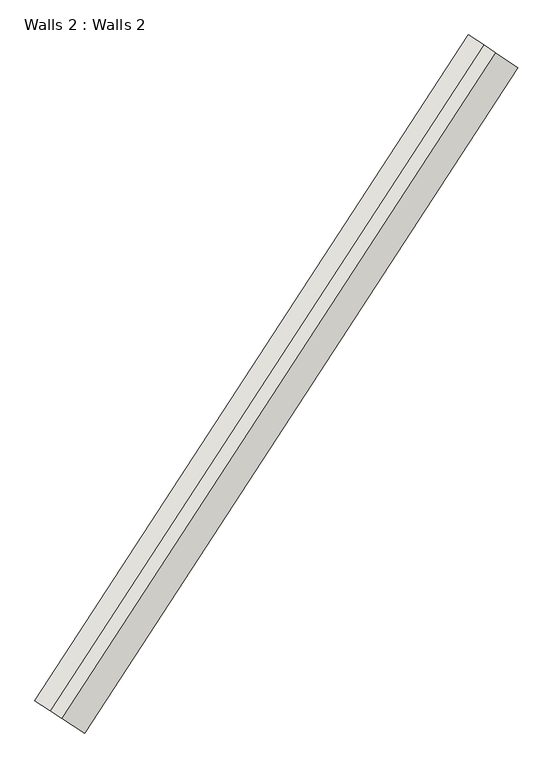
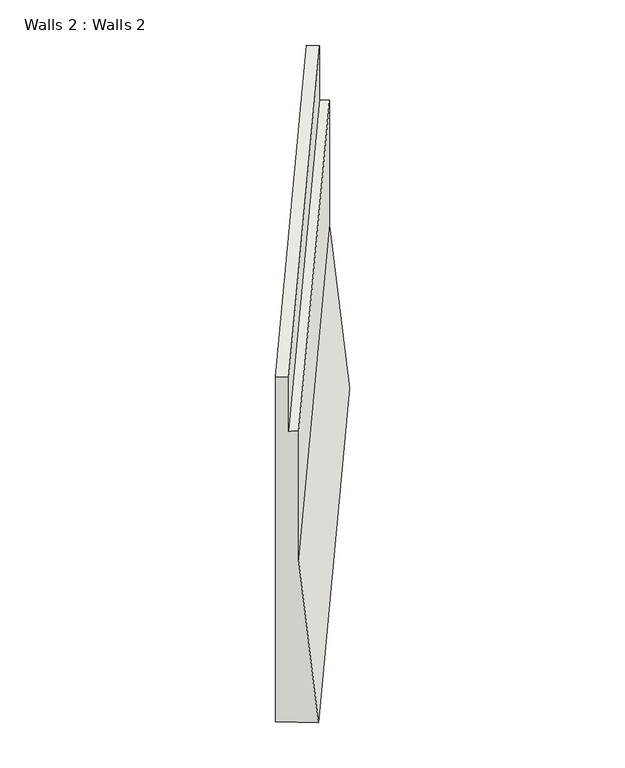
"""IFC4 building model written with IfcOpenShell, lengths in millimetres: wall geometry, Walls 2 : Walls 2."""

from ifc_helpers import new_model, si_unit, frame, origin, place, context, project, spatial, source, transform, mapped, element, save
from ifc_brep_helpers import plane_surface, spline_curve, spline_surface, advanced_brep


def walls_2_walls_2_f6509d08(model_context):
    return source(origin(), model_context, "Body", "AdvancedBrep", [
        advanced_brep(
        [(-347849.4933162, -499172.4992596, 634160.0), (-348101.7824596, -499010.1733707, 637160.0), (-348101.7824596, -499010.1733707, 639530.0), (-348227.9270312, -498929.0104263, 639530.0), (-348227.9270312, -498929.0104263, 640530.0), (-348396.1197934, -498820.793167, 640530.0), (-348396.1197934, -498820.793167, 634160.0), (-343103.9241277, -491890.356619, 634260.0), (-343646.4200036, -491532.3120605, 634260.0), (-343646.4200036, -491532.3120605, 640570.0), (-343479.4981956, -491642.479617, 640570.0), (-343479.4981956, -491642.479617, 639570.0), (-343354.3068396, -491725.1052843, 639570.0), (-343354.3068396, -491725.1052843, 637260.0)],
        [
            (0, 1),
            (1, 2),
            (2, 3),
            (3, 4),
            (4, 5),
            (5, 6),
            (6, 0),
            (7, 8),
            (8, 9),
            (9, 10),
            (10, 11),
            (11, 12),
            (12, 13),
            (13, 7),
            (13, 1, spline_curve(3, [(-343354.3068396, -491725.1052843, 637260.0), (-344950.913215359, -494144.224227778, 637226.666666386), (-346533.440820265, -496572.635087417, 637193.333333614), (-348101.7824596, -499010.1733707, 637160.0)], [4, 4], [0.0, 28.524659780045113])),
            (0, 7, spline_curve(3, [(-347849.4933162, -499172.4992596, 634160.0), (-346281.781471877, -496735.939812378, 634193.333333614), (-344699.889358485, -494308.504122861, 634226.666666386), (-343103.9241277, -491890.356619, 634260.0)], [4, 4], [0.0, 28.524659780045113])),
            (12, 2, spline_curve(3, [(-343354.3068396, -491725.1052843, 639570.0), (-344950.913215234, -494144.224227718, 639556.666666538), (-346533.440819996, -496572.635087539, 639543.333333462), (-348101.7824596, -499010.1733707, 639530.0)], [4, 4], [0.0, 28.529425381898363])),
            (11, 3, spline_curve(3, [(-343479.4981956, -491642.479617, 639570.0), (-345076.425143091, -494062.084279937, 639556.666667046), (-346659.270494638, -496490.982725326, 639543.333332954), (-348227.9270312, -498929.0104263, 639530.0)], [4, 4], [0.0, 28.531666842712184])),
            (10, 4, spline_curve(3, [(-343479.4981956, -491642.479617, 640570.0), (-345076.425143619, -494062.084279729, 640556.66666692), (-346659.2704946, -496490.982725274, 640543.33333308), (-348227.9270312, -498929.0104263, 640530.0)], [4, 4], [0.0, 28.5345308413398])),
            (9, 5, spline_curve(3, [(-343646.4200036, -491532.3120605, 640570.0), (-345243.774382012, -493952.564349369, 640556.666666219), (-346827.043393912, -496382.112908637, 640543.333333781), (-348396.1197934, -498820.793167, 640530.0)], [4, 4], [0.0, 28.538349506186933])),
            (8, 6, spline_curve(3, [(-343646.4200036, -491532.3120605, 634260.0), (-345243.774381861, -493952.56434958, 634226.666666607), (-346827.043393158, -496382.112908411, 634193.333333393), (-348396.1197934, -498820.793167, 634160.0)], [4, 4], [0.0, 28.542790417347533])),
        ],
        [
            plane_surface(frame((-348185.8788407, -498956.0647411, 637942.8571429), z_axis=(-0.541087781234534, -0.8409661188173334, 0.0), x_axis=(-0.08367902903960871, 0.0538401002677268, 0.9950372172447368))),
            plane_surface(frame((-343437.7677436, -491670.0215061, 638008.5714286), z_axis=(0.5508392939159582, 0.8346113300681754, 0.0), x_axis=(-0.08304670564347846, 0.05481040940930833, 0.9950372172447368))),
            spline_surface(3, 3, [[(-343103.9241277, -491890.356619, 634260.0), (-344699.889358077, -494308.504122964, 634226.666666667), (-346281.781471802, -496735.939812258, 634193.333333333), (-347849.4933162, -499172.4992596, 634160.0)], [(-343187.385031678, -491835.272840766, 635260.0), (-344783.563977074, -494253.744157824, 635226.666666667), (-346365.667921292, -496681.504903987, 635193.333333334), (-347933.58969731, -499118.390629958, 635160.0)], [(-343270.845935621, -491780.189062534, 636260.0), (-344867.238596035, -494198.984192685, 636226.666666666), (-346449.554370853, -496627.069995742, 636193.333333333), (-348017.68607849, -499064.282000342, 636160.0)], [(-343354.3068396, -491725.1052843, 637260.0), (-344950.913215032, -494144.224227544, 637226.666666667), (-346533.440820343, -496572.635087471, 637193.333333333), (-348101.7824596, -499010.1733707, 637160.0)]], [4, 4], [4, 4], [0.0, 9.891609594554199], [0.0, 28.524659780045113]),
            spline_surface(3, 3, [[(-343354.3068396, -491725.1052843, 637260.0), (-344950.913215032, -494144.224227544, 637226.666666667), (-346533.440820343, -496572.635087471, 637193.333333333), (-348101.7824596, -499010.1733707, 637160.0)], [(-343354.3068396, -491725.1052843, 638030.0), (-344950.913215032, -494144.224227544, 638003.333333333), (-346533.440820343, -496572.635087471, 637976.666666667), (-348101.7824596, -499010.1733707, 637950.0)], [(-343354.3068396, -491725.1052843, 638800.0), (-344950.913215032, -494144.224227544, 638780.0), (-346533.440820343, -496572.635087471, 638760.0), (-348101.7824596, -499010.1733707, 638740.0)], [(-343354.3068396, -491725.1052843, 639570.0), (-344950.913215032, -494144.224227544, 639556.666666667), (-346533.440820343, -496572.635087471, 639543.333333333), (-348101.7824596, -499010.1733707, 639530.0)]], [4, 4], [4, 4], [0.0, 7.677165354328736], [0.0, 28.529425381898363]),
            spline_surface(3, 3, [[(-343354.3068396, -491725.1052843, 639570.0), (-344950.913215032, -494144.224227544, 639556.666666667), (-346533.440820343, -496572.635087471, 639543.333333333), (-348101.7824596, -499010.1733707, 639530.0)], [(-343396.037291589, -491697.563395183, 639570.0), (-344992.75052453, -494116.844244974, 639556.666666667), (-346575.384045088, -496545.417633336, 639543.333333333), (-348143.830650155, -498983.119055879, 639530.0)], [(-343437.767743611, -491670.021506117, 639570.0), (-345034.587834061, -494089.464262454, 639556.666666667), (-346617.327269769, -496518.200179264, 639543.333333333), (-348185.878840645, -498956.064741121, 639530.0)], [(-343479.4981956, -491642.479617, 639570.0), (-345076.425143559, -494062.084279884, 639556.666666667), (-346659.270494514, -496490.982725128, 639543.333333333), (-348227.9270312, -498929.0104263, 639530.0)]], [4, 4], [4, 4], [0.0, 0.4921246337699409], [0.0, 28.531666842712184]),
            spline_surface(3, 3, [[(-343479.4981956, -491642.479617, 639570.0), (-345076.425143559, -494062.084279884, 639556.666666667), (-346659.270494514, -496490.982725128, 639543.333333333), (-348227.9270312, -498929.0104263, 639530.0)], [(-343479.4981956, -491642.479617, 639903.333333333), (-345076.425143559, -494062.084279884, 639890.0), (-346659.270494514, -496490.982725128, 639876.666666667), (-348227.9270312, -498929.0104263, 639863.333333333)], [(-343479.4981956, -491642.479617, 640236.666666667), (-345076.425143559, -494062.084279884, 640223.333333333), (-346659.270494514, -496490.982725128, 640210.0), (-348227.9270312, -498929.0104263, 640196.666666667)], [(-343479.4981956, -491642.479617, 640570.0), (-345076.425143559, -494062.084279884, 640556.666666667), (-346659.270494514, -496490.982725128, 640543.333333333), (-348227.9270312, -498929.0104263, 640530.0)]], [4, 4], [4, 4], [0.0, 3.280839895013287], [0.0, 28.5345308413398]),
            spline_surface(3, 3, [[(-343479.4981956, -491642.479617, 640570.0), (-345076.425143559, -494062.084279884, 640556.666666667), (-346659.270494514, -496490.982725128, 640543.333333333), (-348227.9270312, -498929.0104263, 640530.0)], [(-343535.138798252, -491605.757098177, 640570.0), (-345132.20822289, -494025.577636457, 640556.666666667), (-346715.194794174, -496454.692786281, 640543.333333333), (-348283.991285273, -498892.938006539, 640530.0)], [(-343590.779400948, -491569.034579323, 640570.0), (-345187.991302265, -493989.070992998, 640556.666666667), (-346771.119093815, -496418.402847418, 640543.333333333), (-348340.055539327, -498856.865586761, 640530.0)], [(-343646.4200036, -491532.3120605, 640570.0), (-345243.774381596, -493952.564349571, 640556.666666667), (-346827.043393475, -496382.112908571, 640543.333333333), (-348396.1197934, -498820.793167, 640530.0)]], [4, 4], [4, 4], [0.0, 0.6561661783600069], [0.0, 28.538349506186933]),
            spline_surface(3, 3, [[(-343646.4200036, -491532.3120605, 640570.0), (-345243.774381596, -493952.564349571, 640556.666666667), (-346827.043393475, -496382.112908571, 640543.333333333), (-348396.1197934, -498820.793167, 640530.0)], [(-343646.4200036, -491532.3120605, 638466.666666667), (-345243.774381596, -493952.564349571, 638446.666666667), (-346827.043393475, -496382.112908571, 638426.666666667), (-348396.1197934, -498820.793167, 638406.666666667)], [(-343646.4200036, -491532.3120605, 636363.333333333), (-345243.774381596, -493952.564349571, 636336.666666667), (-346827.043393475, -496382.112908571, 636310.0), (-348396.1197934, -498820.793167, 636283.333333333)], [(-343646.4200036, -491532.3120605, 634260.0), (-345243.774381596, -493952.564349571, 634226.666666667), (-346827.043393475, -496382.112908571, 634193.333333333), (-348396.1197934, -498820.793167, 634160.0)]], [4, 4], [4, 4], [0.0, 20.800524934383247], [0.0, 28.542790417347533]),
            spline_surface(3, 3, [[(-343646.4200036, -491532.3120605, 634260.0), (-345243.774381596, -493952.564349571, 634226.666666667), (-346827.043393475, -496382.112908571, 634193.333333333), (-348396.1197934, -498820.793167, 634160.0)], [(-343465.58804498, -491651.660246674, 634260.0), (-345062.479373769, -494071.210940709, 634226.666666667), (-346645.28941958, -496500.055209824, 634193.333333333), (-348213.910967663, -498938.028531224, 634160.0)], [(-343284.75608632, -491771.008432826, 634260.0), (-344881.184365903, -494189.857531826, 634226.666666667), (-346463.535445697, -496617.997511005, 634193.333333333), (-348031.702141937, -499055.263895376, 634160.0)], [(-343103.9241277, -491890.356619, 634260.0), (-344699.889358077, -494308.504122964, 634226.666666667), (-346281.781471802, -496735.939812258, 634193.333333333), (-347849.4933162, -499172.4992596, 634160.0)]], [4, 4], [4, 4], [0.0, 2.132540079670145], [0.0, 28.53134207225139]),
        ],
        [
            (0, [[1, 2, 3, 4, 5, 6, 7]]),
            (1, [[8, 9, 10, 11, 12, 13, 14]]),
            (2, [[-14, 15, -1, 16]]),
            (3, [[-13, 17, -2, -15]]),
            (4, [[-12, 18, -3, -17]]),
            (5, [[-11, 19, -4, -18]]),
            (6, [[-10, 20, -5, -19]]),
            (7, [[-9, 21, -6, -20]]),
            (8, [[-8, -16, -7, -21]]),
        ],
    ),
    ])


if __name__ == "__main__":
    model = new_model("IFC4")
    model_context = context("Model", 3, world=origin())
    ifc_project = project(units=[si_unit("LENGTHUNIT", "METRE", prefix="MILLI")], contexts=[model_context])
    site = spatial("IfcSite", under=ifc_project)
    building = spatial("IfcBuilding", under=site)
    placement = place(None, origin())
    walls_2_walls_2_shape = walls_2_walls_2_f6509d08(model_context)
    element("IfcWall", 1, ObjectType="Walls 2 : Walls 2", at=placement, inside=building, context=model_context, shape_type="MappedRepresentation", body=[
        mapped(walls_2_walls_2_shape, transform((0.0, 0.0, 0.0), x_axis=(1.0, 0.0, 0.0), y_axis=(0.0, 1.0, 0.0), z_axis=(0.0, 0.0, 1.0))),
    ])
    save(model, "model.ifc")
